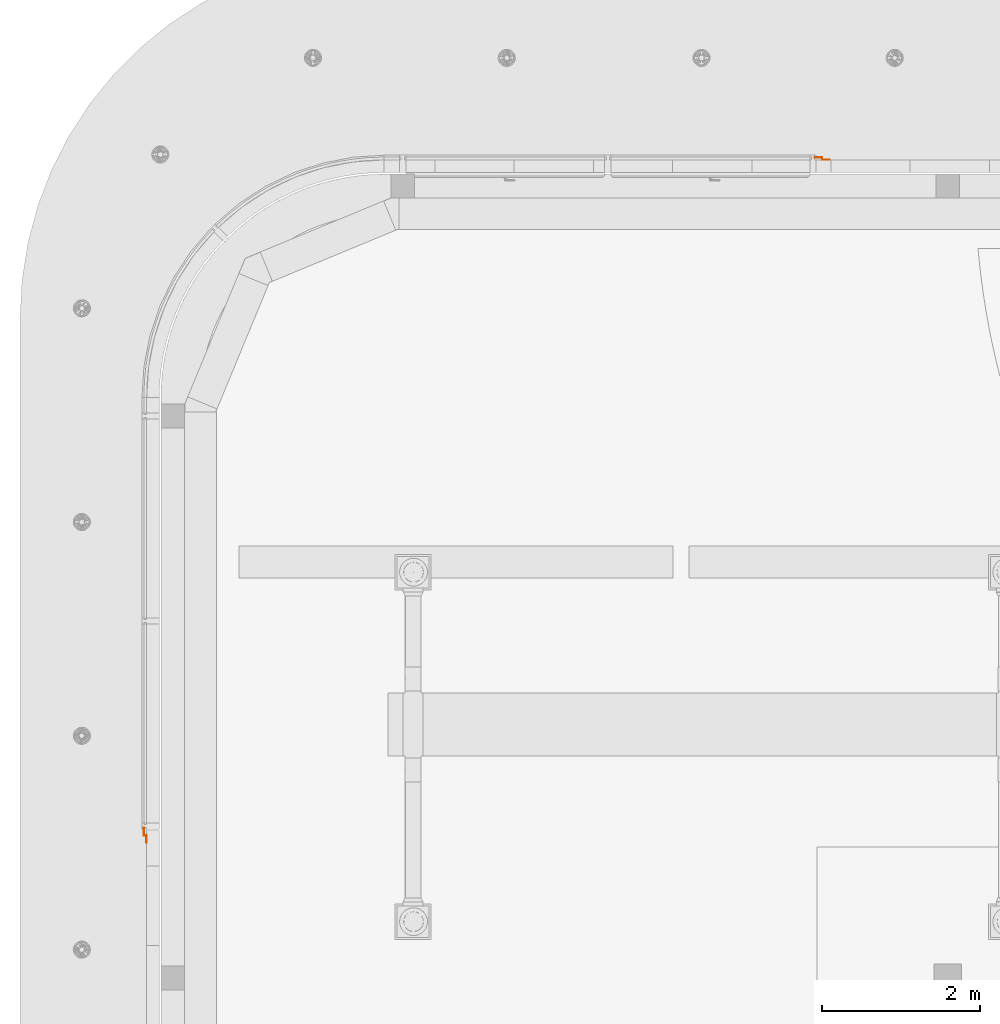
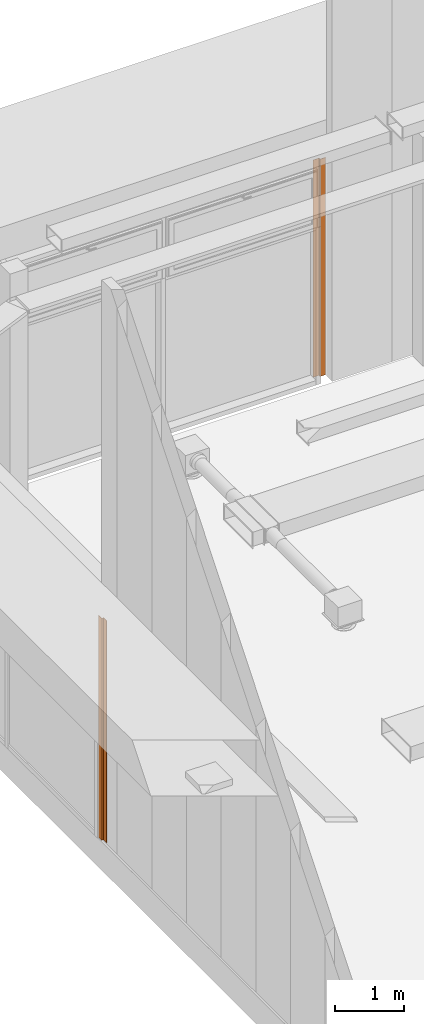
# One storey, part 289 of 302: 2 proxies.
"""IFC2X3 building model written with IfcOpenShell, lengths in metres."""

from ifc_helpers import new_model, entity, si_unit, converted_unit, derived_unit, direction, frame, origin, place, context, subcontext, project, spatial, polyline, outline, extrude, source, transform, mapped, material, type_object, type_shapes, element, save


model = new_model("IFC2X3")

# Units and contexts
model_context = context("Model", 3, precision=1e-05, world=origin(), true_north=direction((6.12303176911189e-17, 1.0)))
body_context = subcontext(model_context, "Body", "Model", "MODEL_VIEW")
ifc_project = project(units=[si_unit("LENGTHUNIT", "METRE"), si_unit("AREAUNIT", "SQUARE_METRE"), si_unit("VOLUMEUNIT", "CUBIC_METRE"), converted_unit("PLANEANGLEUNIT", "DEGREE", entity("IfcRatioMeasure", 0.0174532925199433), si_unit("PLANEANGLEUNIT", "RADIAN"), dimensions=[0, 0, 0, 0, 0, 0, 0]), si_unit("MASSUNIT", "GRAM", prefix="KILO"), derived_unit("MASSDENSITYUNIT", [(si_unit("MASSUNIT", "GRAM", prefix="KILO"), 1), (si_unit("LENGTHUNIT", "METRE"), -3)]), derived_unit("MOMENTOFINERTIAUNIT", [(si_unit("LENGTHUNIT", "METRE"), 4)]), si_unit("TIMEUNIT", "SECOND"), si_unit("FREQUENCYUNIT", "HERTZ"), si_unit("THERMODYNAMICTEMPERATUREUNIT", "DEGREE_CELSIUS"), derived_unit("THERMALTRANSMITTANCEUNIT", [(si_unit("MASSUNIT", "GRAM", prefix="KILO"), 1), (si_unit("THERMODYNAMICTEMPERATUREUNIT", "KELVIN"), -1), (si_unit("TIMEUNIT", "SECOND"), -3)]), derived_unit("VOLUMETRICFLOWRATEUNIT", [(si_unit("LENGTHUNIT", "METRE"), 3), (si_unit("TIMEUNIT", "SECOND"), -1)]), si_unit("ELECTRICCURRENTUNIT", "AMPERE"), si_unit("ELECTRICVOLTAGEUNIT", "VOLT"), si_unit("POWERUNIT", "WATT"), si_unit("FORCEUNIT", "NEWTON", prefix="KILO"), si_unit("ILLUMINANCEUNIT", "LUX"), si_unit("LUMINOUSFLUXUNIT", "LUMEN"), si_unit("LUMINOUSINTENSITYUNIT", "CANDELA"), derived_unit("USERDEFINED", [(si_unit("MASSUNIT", "GRAM", prefix="KILO"), -1), (si_unit("LENGTHUNIT", "METRE"), -2), (si_unit("TIMEUNIT", "SECOND"), 3), (si_unit("LUMINOUSFLUXUNIT", "LUMEN"), 1)]), derived_unit("LINEARVELOCITYUNIT", [(si_unit("LENGTHUNIT", "METRE"), 1), (si_unit("TIMEUNIT", "SECOND"), -1)]), si_unit("PRESSUREUNIT", "PASCAL"), derived_unit("USERDEFINED", [(si_unit("LENGTHUNIT", "METRE"), -2), (si_unit("MASSUNIT", "GRAM", prefix="KILO"), 1), (si_unit("TIMEUNIT", "SECOND"), -2)]), derived_unit("LINEARFORCEUNIT", [(si_unit("MASSUNIT", "GRAM", prefix="KILO"), 1), (si_unit("LENGTHUNIT", "METRE"), 1), (si_unit("TIMEUNIT", "SECOND"), -2), (si_unit("LENGTHUNIT", "METRE"), -1)]), derived_unit("PLANARFORCEUNIT", [(si_unit("MASSUNIT", "GRAM", prefix="KILO"), 1), (si_unit("LENGTHUNIT", "METRE"), 1), (si_unit("TIMEUNIT", "SECOND"), -2), (si_unit("LENGTHUNIT", "METRE"), -2)])], contexts=[model_context])

# Site, building, storey
site_placement = place(None, origin())
site = spatial("IfcSite", under=ifc_project, at=site_placement, Name="Default", CompositionType="ELEMENT")
building_placement = place(site_placement, origin())
building = spatial("IfcBuilding", under=site, at=building_placement, CompositionType="ELEMENT")
storey_placement = place(building_placement, frame((0.0, 0.0, -1.3)))
storey = spatial("IfcBuildingStorey", under=building, at=storey_placement, Name="00_EG", CompositionType="ELEMENT", Elevation=-1.3)

# Proxies
ifc_material = material(Name="<Unnamed>")
building_element_proxy_type_1 = type_object("IfcBuildingElementProxyType", Name="Fensterrahmen Fassade 4:Fensterrahmen Fassade 2", PredefinedType="NOTDEFINED", material=ifc_material)
shared_shape_1 = source(origin(), body_context, "Body", "SweptSolid", [
    extrude(outline(polyline([(-0.0125000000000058, -0.00354999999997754), (0.0174999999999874, -0.00354999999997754), (0.0174999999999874, 0.0964499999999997), (0.0124999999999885, 0.0964500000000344), (0.0124999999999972, 0.001450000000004), (-0.0175000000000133, 0.001450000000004), (-0.0175000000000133, -0.0943499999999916), (-0.0125000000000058, -0.0943499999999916), (-0.0125000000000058, -0.00354999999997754)])), frame((-258.30966364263, 45.755588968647, 0.0), z_axis=(0.0, 0.0, 1.0), x_axis=(0.0, 1.0, 0.0)), (0.0, 0.0, 1.0), 3.83),
])
type_shapes(building_element_proxy_type_1, [shared_shape_1])
proxy_1_placement = place(storey_placement, frame((0.0, 0.0, 1.3)))
element("IfcBuildingElementProxy", 1, at=proxy_1_placement, inside=storey, type_object=building_element_proxy_type_1, material=ifc_material, Name="Fensterrahmen Fassade 4:Fensterrahmen Fassade 2", ObjectType="Fensterrahmen Fassade 4:Fensterrahmen Fassade 2", context=body_context, shape_type="MappedRepresentation", body=[
    mapped(shared_shape_1, transform((0.0, 0.0, 0.0), scale=1.0)),
])
building_element_proxy_type_2 = type_object("IfcBuildingElementProxyType", Name="Fensterrahmen Fassade 5:Fensterrahmen Fassade 2", PredefinedType="NOTDEFINED", material=ifc_material)
shared_shape_2 = source(origin(), body_context, "Body", "SweptSolid", [
    extrude(outline(polyline([(0.00354999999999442, 0.0125000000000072), (0.0943499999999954, 0.0125000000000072), (0.0943499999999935, 0.0175000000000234), (-0.00145000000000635, 0.0175000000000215), (-0.0014499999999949, -0.0125000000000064), (-0.096449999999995, -0.0125000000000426), (-0.0964499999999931, -0.0175000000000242), (0.00355000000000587, -0.017499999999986), (0.00354999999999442, 0.0125000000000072)])), frame((-266.857594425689, 37.2076372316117, 0.0), z_axis=(0.0, 0.0, 1.0), x_axis=(0.0, -1.0, 0.0)), (0.0, 0.0, 1.0), 3.91),
])
type_shapes(building_element_proxy_type_2, [shared_shape_2])
proxy_2_placement = place(storey_placement, frame((0.0, 0.0, 1.3)))
element("IfcBuildingElementProxy", 2, at=proxy_2_placement, inside=storey, type_object=building_element_proxy_type_2, material=ifc_material, Name="Fensterrahmen Fassade 5:Fensterrahmen Fassade 2", ObjectType="Fensterrahmen Fassade 5:Fensterrahmen Fassade 2", context=body_context, shape_type="MappedRepresentation", body=[
    mapped(shared_shape_2, transform((0.0, 0.0, 0.0), scale=1.0)),
])

save(model, "model.ifc")
